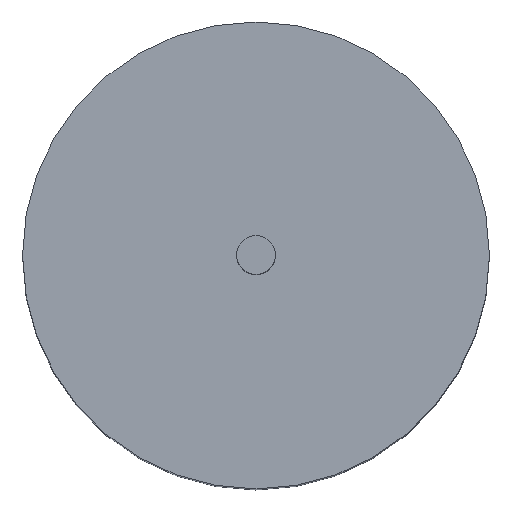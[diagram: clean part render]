
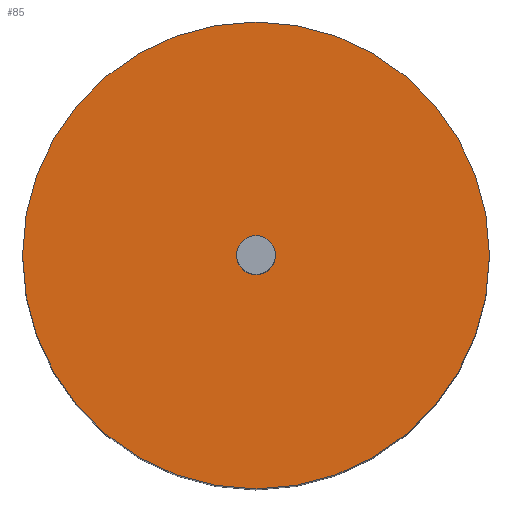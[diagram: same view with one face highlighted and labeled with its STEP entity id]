
A CAD part, top view. The second image highlights one B-rep face of the part: STEP entity #85.
In plain terms, the highlighted planar face has unit normal (0, 0, 1).
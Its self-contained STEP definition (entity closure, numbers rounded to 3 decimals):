
#15=FACE_BOUND('',#28,.T.);
#17=PLANE('',#118);
#22=FACE_OUTER_BOUND('',#27,.T.);
#27=EDGE_LOOP('',(#74,#75));
#28=EDGE_LOOP('',(#76,#77));
#36=CIRCLE('',#110,1.15);
#37=CIRCLE('',#111,1.15);
#38=CIRCLE('',#114,13.85);
#39=CIRCLE('',#115,13.85);
#44=VERTEX_POINT('',#156);
#45=VERTEX_POINT('',#158);
#46=VERTEX_POINT('',#163);
#47=VERTEX_POINT('',#164);
#53=EDGE_CURVE('',#45,#44,#36,.T.);
#54=EDGE_CURVE('',#44,#45,#37,.T.);
#55=EDGE_CURVE('',#46,#47,#38,.T.);
#56=EDGE_CURVE('',#47,#46,#39,.T.);
#74=ORIENTED_EDGE('',*,*,#55,.T.);
#75=ORIENTED_EDGE('',*,*,#56,.T.);
#76=ORIENTED_EDGE('',*,*,#53,.T.);
#77=ORIENTED_EDGE('',*,*,#54,.T.);
#85=ADVANCED_FACE('',(#22,#15),#17,.T.);
#110=AXIS2_PLACEMENT_3D('',#159,#129,#130);
#111=AXIS2_PLACEMENT_3D('',#160,#131,#132);
#114=AXIS2_PLACEMENT_3D('',#165,#137,#138);
#115=AXIS2_PLACEMENT_3D('',#166,#139,#140);
#118=AXIS2_PLACEMENT_3D('',#172,#146,#147);
#129=DIRECTION('center_axis',(0.,0.,-1.));
#130=DIRECTION('ref_axis',(1.,0.,0.));
#131=DIRECTION('center_axis',(0.,0.,-1.));
#132=DIRECTION('ref_axis',(1.,0.,0.));
#137=DIRECTION('center_axis',(0.,0.,1.));
#138=DIRECTION('ref_axis',(1.,0.,0.));
#139=DIRECTION('center_axis',(0.,0.,1.));
#140=DIRECTION('ref_axis',(1.,0.,0.));
#146=DIRECTION('center_axis',(0.,0.,1.));
#147=DIRECTION('ref_axis',(1.,0.,0.));
#156=CARTESIAN_POINT('',(-1.15,0.,37.8));
#158=CARTESIAN_POINT('',(1.15,0.,37.8));
#159=CARTESIAN_POINT('Origin',(0.,0.,37.8));
#160=CARTESIAN_POINT('Origin',(0.,0.,37.8));
#163=CARTESIAN_POINT('',(13.85,0.,37.8));
#164=CARTESIAN_POINT('',(-13.85,0.,37.8));
#165=CARTESIAN_POINT('Origin',(0.,0.,37.8));
#166=CARTESIAN_POINT('Origin',(0.,0.,37.8));
#172=CARTESIAN_POINT('Origin',(0.,0.,37.8));
